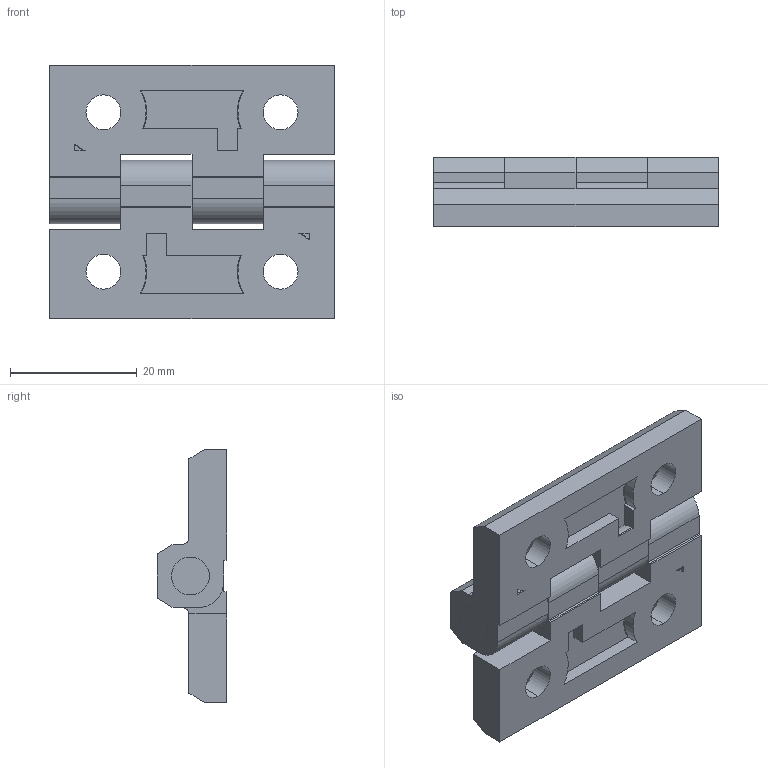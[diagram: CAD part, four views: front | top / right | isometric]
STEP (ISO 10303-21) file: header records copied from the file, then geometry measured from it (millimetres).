
FILE_DESCRIPTION (( 'STEP AP203' ), '1' );
FILE_NAME ('B01-2525B.STEP', '2024-10-28T08:45:14', ( '' ), ( '' ), 'SwSTEP 2.0', 'SolidWorks 2021', '' );
FILE_SCHEMA (( 'CONFIG_CONTROL_DESIGN' ));
Length unit declared in the file: millimetre
Products named in the file (4): B01-25.STEP; B01-2525B; B01-2525.STEP; B01-_b__.STEP
Assembly tree (4 placements, depth 3):
  B01-2525B
    B01-2525.STEP
      B01-25.STEP  x2
      B01-_b__.STEP
Bounding box: 45 x 11 x 40 mm (x, y, z)
Volume: 10880 mm3; surface area: 7828 mm2
Topology: 3 solids, 3 shells, 126 faces, 334 edges, 218 vertices
Faces by surface type: plane 72, cylinder 40, cone 14
Entity records: 2481 total; most frequent: CARTESIAN_POINT 387, DIRECTION 357, ORIENTED_EDGE 340, EDGE_CURVE 170, AXIS2_PLACEMENT_3D 121, VECTOR 115, LINE 115, VERTEX_POINT 111
